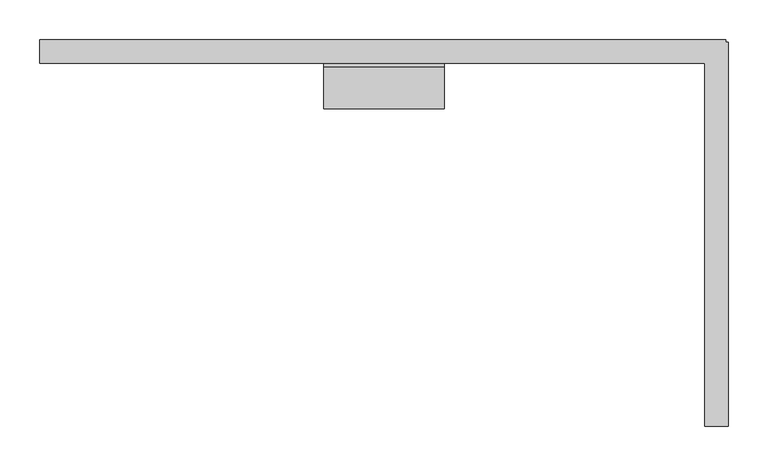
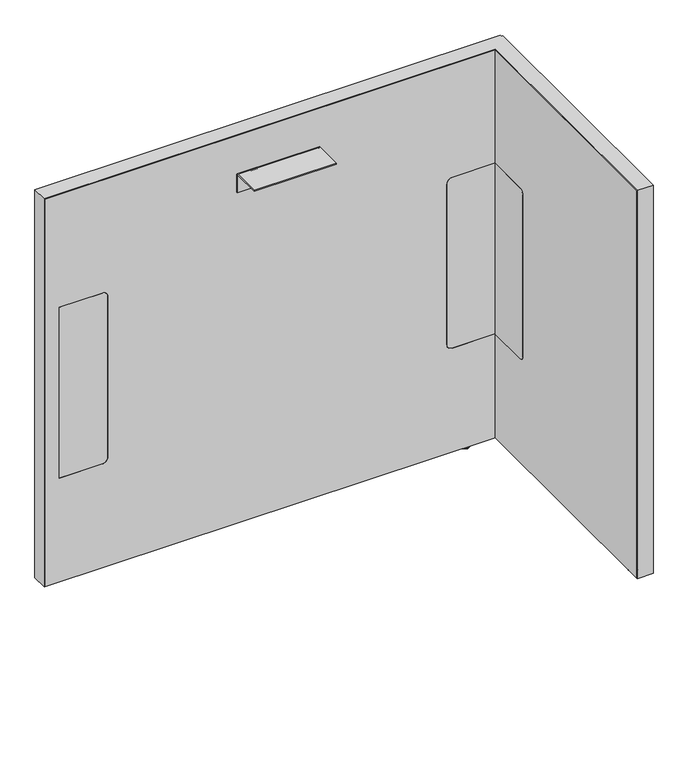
"""IFC4 building model written with IfcOpenShell, lengths in millimetres: furniture geometry, Steelcase - Answer Solution - Boundary Screen - L Return - Single Sided : 30H x 33W."""

from ifc_helpers import new_model, si_unit, point, frame, frame_2d, origin, place, context, project, spatial, polyline, circle_curve, ellipse_curve, trimmed, segment, composite_curve, outline, extrude, faceted_brep, source, transform, mapped, element, save
from ifc_brep_helpers import plane_surface, cylinder_surface, revolved_surface, advanced_brep


def furniture_544265d9(model_context):
    return source(origin(), model_context, "Body", "SolidModel", [
        extrude(outline(composite_curve([segment(polyline([(-109.3501471, 549.6162029), (-29.0550397, 549.6162029), (-29.0550397, 213.7762137), (-109.3501471, 213.7762137)]), True, "CONTINUOUS"), segment(trimmed(circle_curve(frame_2d((-109.3501471, 223.9362137)), 10.16), [point((-109.3501471, 213.7762137))], [point((-119.5101471, 223.9362137))], False, "CARTESIAN"), True, "CONTINUOUS"), segment(polyline([(-119.5101471, 223.9362137), (-119.5101471, 539.4562029)]), True, "CONTINUOUS"), segment(trimmed(circle_curve(frame_2d((-109.3501471, 539.4562029)), 10.16), [point((-119.5101471, 539.4562029))], [point((-109.3501471, 549.6162029))], False, "CARTESIAN"), True, "CONTINUOUS")], self_intersect=False)), frame((1068.0191891, 0.0, 0.0), z_axis=(1.0, 0.0, 0.0), x_axis=(0.0, 1.0, 0.0)), (0.0, 0.0, 1.0), 0.6401544),
        advanced_brep(
        [(1082.8672074, -448.0136072, 0.0), (1089.8216144, -448.0136072, 0.0), (1075.9128003, -448.0136072, 0.0), (1091.2762685, -448.0136072, 1.2700001), (1074.4581463, -448.0136072, 1.2700001), (1091.2762685, -448.0136072, 2.9673238), (1074.4581463, -448.0136072, 2.9673238), (1092.2427877, -448.0136072, 2.9673238), (1073.491627, -448.0136072, 2.9673238), (1092.2427877, -448.0136072, 9.9059849), (1073.491627, -448.0136072, 9.9059849), (1082.8672074, -448.0136072, 9.9059849)],
        [
            (0, 1),
            (1, 2, circle_curve(frame((1082.8672074, -448.0136072, 0.0), z_axis=(0.0, 0.0, -1.0), x_axis=(1.0, 0.0, 0.0)), 6.9544071)),
            (2, 0),
            (2, 1, circle_curve(frame((1082.8672074, -448.0136072, 0.0), z_axis=(0.0, 0.0, -1.0), x_axis=(1.0, 0.0, 0.0)), 6.9544071)),
            (1, 3, circle_curve(frame((1089.9945484, -448.0136072, 1.2700001), z_axis=(0.0, -1.0, 0.0), x_axis=(0.0, 0.0, 1.0)), 1.2817201)),
            (3, 4, circle_curve(frame((1082.8672074, -448.0136072, 1.2700001), z_axis=(0.0, 0.0, -1.0), x_axis=(1.0, 0.0, 0.0)), 8.4090611)),
            (4, 2, circle_curve(frame((1075.7398663, -448.0136072, 1.2700001), z_axis=(0.0, -1.0, 0.0), x_axis=(0.0, 0.0, 1.0)), 1.2817201)),
            (4, 3, circle_curve(frame((1082.8672074, -448.0136072, 1.2700001), z_axis=(0.0, 0.0, -1.0), x_axis=(1.0, 0.0, 0.0)), 8.4090611)),
            (3, 5),
            (5, 6, circle_curve(frame((1082.8672074, -448.0136072, 2.9673238), z_axis=(0.0, 0.0, -1.0), x_axis=(1.0, 0.0, 0.0)), 8.4090611)),
            (6, 4),
            (6, 5, circle_curve(frame((1082.8672074, -448.0136072, 2.9673238), z_axis=(0.0, 0.0, -1.0), x_axis=(1.0, 0.0, 0.0)), 8.4090611)),
            (5, 7),
            (7, 8, circle_curve(frame((1082.8672074, -448.0136072, 2.9673238), z_axis=(0.0, 0.0, -1.0), x_axis=(1.0, 0.0, 0.0)), 9.3755804)),
            (8, 6),
            (8, 7, circle_curve(frame((1082.8672074, -448.0136072, 2.9673238), z_axis=(0.0, 0.0, -1.0), x_axis=(1.0, 0.0, 0.0)), 9.3755804)),
            (7, 9),
            (9, 10, circle_curve(frame((1082.8672074, -448.0136072, 9.9059849), z_axis=(0.0, 0.0, -1.0), x_axis=(1.0, 0.0, 0.0)), 9.3755804)),
            (10, 8),
            (10, 9, circle_curve(frame((1082.8672074, -448.0136072, 9.9059849), z_axis=(0.0, 0.0, -1.0), x_axis=(1.0, 0.0, 0.0)), 9.3755804)),
            (9, 11),
            (11, 10),
        ],
        [
            plane_surface(frame((1082.8672074, -448.0136072, 0.0), z_axis=(0.0, 0.0, -1.0), x_axis=(1.0, 0.0, 0.0))),
            revolved_surface(trimmed(ellipse_curve(frame((1089.9945484, -448.0136072, 1.2700001), z_axis=(0.0, 1.0, 0.0), x_axis=(0.0, 0.0, 1.0)), 1.2817201, 1.2817201), [point((1091.2762685, -448.0136072, 1.2700001))], [point((1089.8216144, -448.0136072, 0.0))], True, "CARTESIAN"), (1082.8672074, -448.0136072, 9.9059849), (0.0, 0.0, -1.0)),
            cylinder_surface(frame((1082.8672074, -448.0136072, 9.9059849), z_axis=(0.0, 0.0, -1.0), x_axis=(1.0, 0.0, 0.0)), 8.4090611),
            plane_surface(frame((1082.8672074, -448.0136072, 2.9673238), z_axis=(0.0, 0.0, -1.0), x_axis=(1.0, 0.0, 0.0))),
            cylinder_surface(frame((1082.8672074, -448.0136072, 9.9059849), z_axis=(0.0, 0.0, -1.0), x_axis=(1.0, 0.0, 0.0)), 9.3755804),
            plane_surface(frame((1082.8672074, -448.0136072, 9.9059849), z_axis=(0.0, 0.0, 1.0), x_axis=(1.0, 0.0, 0.0))),
        ],
        [
            (0, [[1, 2, 3]]),
            (0, [[-3, 4, -1]]),
            (1, [[-2, 5, 6, 7]]),
            (1, [[-4, -7, 8, -5]]),
            (2, [[-6, 9, 10, 11]]),
            (2, [[-8, -11, 12, -9]]),
            (3, [[-10, 13, 14, 15]]),
            (3, [[-12, -15, 16, -13]]),
            (4, [[-14, 17, 18, 19]]),
            (4, [[-16, -19, 20, -17]]),
            (5, [[-18, 21, 22]]),
            (5, [[-20, -22, -21]]),
        ],
    ),
        faceted_brep([(1094.4531179, 0.0, 772.922), (1094.4531179, 0.0, 9.9059849), (1093.4621491, 0.0, 9.9059849), (1093.4621491, 0.0, 771.942118), (230.8097779, 0.0, 771.942118), (230.8097779, 0.0, 9.9059849), (229.8191891, 0.0, 9.9059849), (229.8191891, 0.0, 772.922), (229.8191891, -29.6898332, 772.922), (229.8191891, -29.6898332, 9.9059849), (230.8097779, -29.6898332, 9.9059849), (230.8097779, -29.6898332, 771.942118), (1068.0191891, -29.6898332, 771.942118), (1068.0191891, -29.6898332, 772.922), (1093.4621491, -29.6898332, 771.942118), (1093.4621491, -29.6898332, 9.9059849), (1094.4531179, -29.6898332, 9.9059849), (1094.4531179, -29.6898332, 771.942118), (1094.4531179, -3.2625916, 772.922), (1094.4531179, -3.2625916, 9.9059849), (1094.4531179, -4.252647, 9.9059849), (1094.4531179, -4.252647, 771.942118), (1097.7152256, -3.2625916, 9.9059849), (1097.7152256, -4.252647, 9.9059849), (1093.4621491, -4.252647, 9.9059849), (1068.0191891, -4.252647, 9.9059849), (1068.0191891, -3.2625916, 9.9059849), (1093.4621491, -3.2625916, 9.9059849), (1068.0191891, -486.8898332, 772.922), (1097.7152256, -486.8898332, 772.922), (1097.7152256, -3.2625916, 772.922), (1093.4621491, -3.2625916, 771.942118), (1093.4621491, -4.252647, 771.942118), (1068.0191891, -3.2625916, 771.942118), (1068.0191891, -4.252647, 771.942118), (1097.7152256, -4.252647, 771.942118), (1097.7152256, -485.899196, 771.942118), (1068.0191891, -485.899196, 771.942118), (1068.0191891, -485.899196, 9.9059849), (1068.0191891, -486.8898332, 9.9059849), (1097.7152256, -486.8898332, 9.9059849), (1097.7152256, -485.899196, 9.9059849)], [[[0, 1, 2, 3, 4, 5, 6, 7]], [[8, 9, 10, 11, 12, 13]], [[14, 15, 16, 17]], [[1, 0, 18, 19]], [[17, 16, 20, 21]], [[2, 1, 19, 22, 23, 20, 16, 15, 24, 25, 26, 27]], [[7, 6, 9, 8]], [[0, 7, 8, 13, 28, 29, 30, 18]], [[3, 2, 27, 31]], [[15, 14, 32, 24]], [[4, 3, 31, 33, 34, 32, 14, 17, 21, 35, 36, 37, 12, 11]], [[5, 4, 11, 10]], [[6, 5, 10, 9]], [[26, 25, 34, 33]], [[37, 38, 39, 28, 13, 12]], [[29, 40, 41, 36, 35, 23, 22, 30]], [[27, 26, 33, 31]], [[30, 22, 19, 18]], [[34, 25, 24, 32]], [[23, 35, 21, 20]], [[38, 37, 36, 41]], [[39, 38, 41, 40]], [[28, 39, 40, 29]]]),
        extrude(outline(composite_curve([segment(polyline([(-86.8398151, 696.4680019), (-86.8398151, 698.5), (-34.9450855, 698.5)]), True, "CONTINUOUS"), segment(trimmed(circle_curve(frame_2d((-34.9450855, 693.2447477)), 5.2552523), [point((-34.9450855, 698.5))], [point((-29.6898332, 693.2447477))], False, "CARTESIAN"), True, "CONTINUOUS"), segment(polyline([(-29.6898332, 693.2447477), (-29.6898332, 660.4), (-31.7218162, 660.4), (-31.7218162, 693.0058743)]), True, "CONTINUOUS"), segment(trimmed(circle_curve(frame_2d((-35.1839438, 693.0058743)), 3.4621276), [point((-31.7218162, 693.0058743))], [point((-35.1839438, 696.4680019))], True, "CARTESIAN"), True, "CONTINUOUS"), segment(polyline([(-35.1839438, 696.4680019), (-86.8398151, 696.4680019)]), True, "CONTINUOUS")], self_intersect=False)), frame((587.5685899, 0.0, 0.0), z_axis=(1.0, 0.0, 0.0), x_axis=(0.0, 1.0, 0.0)), (0.0, 0.0, 1.0), 152.4000969),
        advanced_brep(
        [(1020.5246853, -23.7588726, 9.9059849), (1020.5246853, -5.9309607, 9.9059849), (1020.5246853, -14.8449166, 9.9059849), (1020.5246853, -23.7588726, 2.9673238), (1020.5246853, -5.9309607, 2.9673238), (1020.5246853, -22.7915354, 2.9673238), (1020.5246853, -6.8982978, 2.9673238), (1020.5246853, -22.7915354, 1.6569081), (1020.5246853, -6.8982978, 1.6569081), (1020.5246853, -21.1346274, 0.0), (1020.5246853, -8.5552059, 0.0), (1020.5246853, -14.8449166, 0.0)],
        [
            (0, 1, circle_curve(frame((1020.5246853, -14.8449166, 9.9059849), z_axis=(0.0, 0.0, 1.0), x_axis=(0.0, 1.0, 0.0)), 8.913956)),
            (1, 2),
            (2, 0),
            (1, 0, circle_curve(frame((1020.5246853, -14.8449166, 9.9059849), z_axis=(0.0, 0.0, 1.0), x_axis=(0.0, 1.0, 0.0)), 8.913956)),
            (3, 4, circle_curve(frame((1020.5246853, -14.8449166, 2.9673238), z_axis=(0.0, 0.0, 1.0), x_axis=(0.0, 1.0, 0.0)), 8.913956)),
            (4, 1),
            (0, 3),
            (4, 3, circle_curve(frame((1020.5246853, -14.8449166, 2.9673238), z_axis=(0.0, 0.0, 1.0), x_axis=(0.0, 1.0, 0.0)), 8.913956)),
            (5, 6, circle_curve(frame((1020.5246853, -14.8449166, 2.9673238), z_axis=(0.0, 0.0, 1.0), x_axis=(0.0, 1.0, 0.0)), 7.9466188)),
            (6, 4),
            (3, 5),
            (6, 5, circle_curve(frame((1020.5246853, -14.8449166, 2.9673238), z_axis=(0.0, 0.0, 1.0), x_axis=(0.0, 1.0, 0.0)), 7.9466188)),
            (7, 8, circle_curve(frame((1020.5246853, -14.8449166, 1.6569081), z_axis=(0.0, 0.0, 1.0), x_axis=(0.0, 1.0, 0.0)), 7.9466188)),
            (8, 6),
            (5, 7),
            (8, 7, circle_curve(frame((1020.5246853, -14.8449166, 1.6569081), z_axis=(0.0, 0.0, 1.0), x_axis=(0.0, 1.0, 0.0)), 7.9466188)),
            (9, 10, circle_curve(frame((1020.5246853, -14.8449166, 0.0), z_axis=(0.0, 0.0, 1.0), x_axis=(0.0, 1.0, 0.0)), 6.2897107)),
            (10, 8, circle_curve(frame((1020.5246853, -8.5552059, 1.6569081), z_axis=(1.0, 0.0, 0.0), x_axis=(0.0, 1.0, 0.0)), 1.6569081)),
            (7, 9, circle_curve(frame((1020.5246853, -21.1346274, 1.6569081), z_axis=(1.0, 0.0, 0.0), x_axis=(0.0, -1.0, 0.0)), 1.6569081)),
            (10, 9, circle_curve(frame((1020.5246853, -14.8449166, 0.0), z_axis=(0.0, 0.0, 1.0), x_axis=(0.0, 1.0, 0.0)), 6.2897107)),
            (11, 10),
            (9, 11),
        ],
        [
            plane_surface(frame((1020.5246853, -14.8449166, 9.9059849), z_axis=(0.0, 0.0, 1.0), x_axis=(0.0, 1.0, 0.0))),
            cylinder_surface(frame((1020.5246853, -14.8449166, 9.9059849), z_axis=(0.0, 0.0, -1.0), x_axis=(0.0, 1.0, 0.0)), 8.913956),
            plane_surface(frame((1020.5246853, -14.8449166, 2.9673238), z_axis=(0.0, 0.0, -1.0), x_axis=(0.0, 1.0, 0.0))),
            cylinder_surface(frame((1020.5246853, -14.8449166, 9.9059849), z_axis=(0.0, 0.0, -1.0), x_axis=(0.0, 1.0, 0.0)), 7.9466188),
            revolved_surface(trimmed(ellipse_curve(frame((1020.5246853, -8.5552059, 1.6569081), z_axis=(-1.0, 0.0, 0.0), x_axis=(0.0, 1.0, 0.0)), 1.6569081, 1.6569081), [point((1020.5246853, -6.8982978, 1.6569081))], [point((1020.5246853, -8.5552059, 0.0))], True, "CARTESIAN"), (1020.5246853, -14.8449166, 9.9059849), (0.0, 0.0, -1.0)),
            plane_surface(frame((1020.5246853, -14.8449166, 0.0), z_axis=(0.0, 0.0, -1.0), x_axis=(0.0, 1.0, 0.0))),
        ],
        [
            (0, [[1, 2, 3]]),
            (0, [[4, -3, -2]]),
            (1, [[5, 6, -1, 7]]),
            (1, [[8, -7, -4, -6]]),
            (2, [[9, 10, -5, 11]]),
            (2, [[12, -11, -8, -10]]),
            (3, [[13, 14, -9, 15]]),
            (3, [[16, -15, -12, -14]]),
            (4, [[17, 18, -13, 19]]),
            (4, [[20, -19, -16, -18]]),
            (5, [[21, -17, 22]]),
            (5, [[-22, -20, -21]]),
        ],
    ),
        advanced_brep(
        [(230.8097779, 0.0, 771.942118), (1093.4621491, 0.0, 771.942118), (1093.4621491, 0.0, 9.9059849), (230.8097779, 0.0, 9.9059849), (347.9483813, -29.0550397, 539.4562029), (337.7883813, -29.0550397, 549.6162029), (258.1344836, -29.0550397, 549.6162029), (258.1344836, -29.0550397, 213.7762137), (337.7883813, -29.0550397, 213.7762137), (347.9483813, -29.0550397, 223.9362137), (1068.6593435, -29.0550397, 213.7762137), (1068.6593435, -29.0550397, 549.6162029), (988.1109268, -29.0550397, 549.6162029), (977.9509268, -29.0550397, 539.4562029), (977.9509268, -29.0550397, 223.9362137), (988.1109268, -29.0550397, 213.7762137), (230.8097779, -29.6898332, 771.942118), (230.8097779, -29.6898332, 9.9059849), (1068.0191891, -29.6898332, 9.9059849), (1068.0191891, -29.6898332, 213.7762137), (988.1109268, -29.6898332, 213.7762137), (977.9509268, -29.6898332, 223.9362137), (977.9509268, -29.6898332, 539.4562029), (988.1109268, -29.6898332, 549.6162029), (1068.0191891, -29.6898332, 549.6162029), (1068.0191891, -29.6898332, 771.942118), (337.7883813, -29.6898332, 549.6162029), (347.9483813, -29.6898332, 539.4562029), (347.9483813, -29.6898332, 223.9362137), (337.7883813, -29.6898332, 213.7762137), (258.1344836, -29.6898332, 213.7762137), (258.1344836, -29.6898332, 549.6162029), (1093.4621491, -4.252647, 9.9059849), (1097.7152256, -4.252647, 9.9059849), (1097.7152256, -485.899196, 9.9059849), (1068.0191891, -485.899196, 9.9059849), (1093.4621491, -4.252647, 771.942118), (1068.0191891, -485.899196, 771.942118), (1097.7152256, -485.899196, 771.942118), (1097.7152256, -4.252647, 771.942118), (1068.6593435, -109.3501471, 549.6162029), (1068.0191891, -109.3501471, 549.6162029), (1068.6593435, -109.3501471, 213.7762137), (1068.6593435, -119.5101471, 223.9362137), (1068.6593435, -119.5101471, 539.4562029), (1068.0191891, -109.3501471, 213.7762137), (1068.0191891, -119.5101471, 539.4562029), (1068.0191891, -119.5101471, 223.9362137)],
        [
            (0, 1),
            (1, 2),
            (2, 3),
            (3, 0),
            (4, 5, circle_curve(frame((337.7883813, -29.0550397, 539.4562029), z_axis=(0.0, -1.0, 0.0), x_axis=(0.0, 0.0, 1.0)), 10.16)),
            (5, 6),
            (6, 7),
            (7, 8),
            (8, 9, circle_curve(frame((337.7883813, -29.0550397, 223.9362137), z_axis=(0.0, -1.0, 0.0), x_axis=(0.0, 0.0, 1.0)), 10.16)),
            (9, 4),
            (10, 11),
            (11, 12),
            (12, 13, circle_curve(frame((988.1109268, -29.0550397, 539.4562029), z_axis=(0.0, -1.0, 0.0), x_axis=(0.0, 0.0, 1.0)), 10.16)),
            (13, 14),
            (14, 15, circle_curve(frame((988.1109268, -29.0550397, 223.9362137), z_axis=(0.0, -1.0, 0.0), x_axis=(0.0, 0.0, 1.0)), 10.16)),
            (15, 10),
            (16, 17),
            (17, 18),
            (18, 19),
            (19, 20),
            (20, 21, circle_curve(frame((988.1109268, -29.6898332, 223.9362137), z_axis=(0.0, 1.0, 0.0), x_axis=(0.0, 0.0, 1.0)), 10.16)),
            (21, 22),
            (22, 23, circle_curve(frame((988.1109268, -29.6898332, 539.4562029), z_axis=(0.0, 1.0, 0.0), x_axis=(0.0, 0.0, 1.0)), 10.16)),
            (23, 24),
            (24, 25),
            (25, 16),
            (26, 27, circle_curve(frame((337.7883813, -29.6898332, 539.4562029), z_axis=(0.0, 1.0, 0.0), x_axis=(0.0, 0.0, 1.0)), 10.16)),
            (27, 28),
            (28, 29, circle_curve(frame((337.7883813, -29.6898332, 223.9362137), z_axis=(0.0, 1.0, 0.0), x_axis=(0.0, 0.0, 1.0)), 10.16)),
            (29, 30),
            (30, 31),
            (31, 26),
            (16, 0),
            (3, 17),
            (2, 32),
            (32, 33),
            (33, 34),
            (34, 35),
            (35, 18),
            (1, 36),
            (36, 32),
            (25, 37),
            (37, 38),
            (38, 39),
            (39, 36),
            (26, 5),
            (4, 27),
            (9, 28),
            (8, 29),
            (7, 30),
            (6, 31),
            (11, 40),
            (40, 41),
            (41, 24),
            (23, 12),
            (42, 43, circle_curve(frame((1068.6593435, -109.3501471, 223.9362137), z_axis=(-1.0, 0.0, 0.0), x_axis=(0.0, 1.0, 0.0)), 10.16)),
            (43, 44),
            (44, 40, circle_curve(frame((1068.6593435, -109.3501471, 539.4562029), z_axis=(-1.0, 0.0, 0.0), x_axis=(0.0, 1.0, 0.0)), 10.16)),
            (10, 42),
            (15, 20),
            (19, 45),
            (45, 42),
            (14, 21),
            (13, 22),
            (35, 37),
            (41, 46, circle_curve(frame((1068.0191891, -109.3501471, 539.4562029), z_axis=(1.0, 0.0, 0.0), x_axis=(0.0, 1.0, 0.0)), 10.16)),
            (46, 47),
            (47, 45, circle_curve(frame((1068.0191891, -109.3501471, 223.9362137), z_axis=(1.0, 0.0, 0.0), x_axis=(0.0, 1.0, 0.0)), 10.16)),
            (38, 34),
            (33, 39),
            (44, 46),
            (43, 47),
        ],
        [
            plane_surface(frame((347.9483813, 0.0, 549.6162029), z_axis=(0.0, 1.0, 0.0), x_axis=(0.0, 0.0, -1.0))),
            plane_surface(frame((347.9483813, -29.0550397, 549.6162029), z_axis=(0.0, -1.0, 0.0), x_axis=(0.0, 0.0, 1.0))),
            plane_surface(frame((1093.4621491, -29.6898332, 771.942118), z_axis=(0.0, -1.0, 0.0), x_axis=(-1.0, 0.0, 0.0))),
            plane_surface(frame((230.8097779, 0.0, 9.9059849), z_axis=(-1.0, 0.0, 0.0), x_axis=(0.0, -1.0, 0.0))),
            plane_surface(frame((1093.4621491, 0.0, 9.9059849), z_axis=(0.0, 0.0, -1.0), x_axis=(0.0, -1.0, 0.0))),
            plane_surface(frame((1093.4621491, 0.0, 771.942118), z_axis=(1.0, 0.0, 0.0), x_axis=(0.0, -1.0, 0.0))),
            plane_surface(frame((230.8097779, 0.0, 771.942118), z_axis=(0.0, 0.0, 1.0), x_axis=(0.0, -1.0, 0.0))),
            revolved_surface(polyline([(337.7883813, -29.6898332, 549.6162029), (337.7883813, -29.0550397, 549.6162029)]), (337.7883813, -29.6898332, 539.4562029), (0.0, -1.0, 0.0)),
            plane_surface(frame((347.9483813, 0.0, 223.9362137), z_axis=(-1.0, 0.0, 0.0), x_axis=(0.0, -1.0, 0.0))),
            revolved_surface(polyline([(337.7883813, -29.6898332, 234.0962137), (337.7883813, -29.0550397, 234.0962137)]), (337.7883813, -29.6898332, 223.9362137), (0.0, -1.0, 0.0)),
            plane_surface(frame((258.1344836, 0.0, 213.7762137), z_axis=(0.0, 0.0, 1.0), x_axis=(0.0, -1.0, 0.0))),
            plane_surface(frame((258.1344836, 0.0, 549.6162029), z_axis=(1.0, 0.0, 0.0), x_axis=(0.0, -1.0, 0.0))),
            plane_surface(frame((337.7883813, 0.0, 549.6162029), z_axis=(0.0, 0.0, -1.0), x_axis=(0.0, -1.0, 0.0))),
            plane_surface(frame((1068.6593435, 0.0, 549.6162029), z_axis=(0.0, 0.0, -1.0), x_axis=(0.0, -1.0, 0.0))),
            plane_surface(frame((1068.6593435, 0.0, 213.7762137), z_axis=(-1.0, 0.0, 0.0), x_axis=(0.0, -1.0, 0.0))),
            plane_surface(frame((988.1109268, 0.0, 213.7762137), z_axis=(0.0, 0.0, 1.0), x_axis=(0.0, -1.0, 0.0))),
            revolved_surface(polyline([(988.1109268, -29.6898332, 234.0962137), (988.1109268, -29.0550397, 234.0962137)]), (988.1109268, -29.6898332, 223.9362137), (0.0, -1.0, 0.0)),
            plane_surface(frame((977.9509268, 0.0, 539.4562029), z_axis=(1.0, 0.0, 0.0), x_axis=(0.0, -1.0, 0.0))),
            revolved_surface(polyline([(988.1109268, -29.6898332, 549.6162029), (988.1109268, -29.0550397, 549.6162029)]), (988.1109268, -29.6898332, 539.4562029), (0.0, -1.0, 0.0)),
            plane_surface(frame((1068.0191891, -485.899196, 771.942118), z_axis=(-1.0, 0.0, 0.0), x_axis=(0.0, 0.0, 1.0))),
            plane_surface(frame((1097.7152256, -485.899196, 771.942118), z_axis=(1.0, 0.0, 0.0), x_axis=(0.0, 0.0, -1.0))),
            plane_surface(frame((1097.7152256, -4.252647, 9.9059849), z_axis=(0.0, 1.0, 0.0), x_axis=(-1.0, 0.0, 0.0))),
            plane_surface(frame((1097.7152256, -485.899196, 771.942118), z_axis=(0.0, -1.0, 0.0), x_axis=(-1.0, 0.0, 0.0))),
            revolved_surface(polyline([(1068.0191891, -99.1901471, 539.4562029), (1068.6593435, -99.1901471, 539.4562029)]), (-340.6902705, -109.3501471, 539.4562029), (-1.0, 0.0, 0.0)),
            plane_surface(frame((1097.7152256, -119.5101471, 223.9362137), z_axis=(0.0, 1.0, 0.0), x_axis=(-1.0, 0.0, 0.0))),
            revolved_surface(polyline([(1068.0191891, -99.1901471, 223.9362137), (1068.6593435, -99.1901471, 223.9362137)]), (-340.6902705, -109.3501471, 223.9362137), (-1.0, 0.0, 0.0)),
        ],
        [
            (0, [[1, 2, 3, 4]]),
            (1, [[5, 6, 7, 8, 9, 10]]),
            (1, [[11, 12, 13, 14, 15, 16]]),
            (2, [[17, 18, 19, 20, 21, 22, 23, 24, 25, 26], [27, 28, 29, 30, 31, 32]]),
            (3, [[-17, 33, -4, 34]]),
            (4, [[-3, 35, 36, 37, 38, 39, -18, -34]]),
            (5, [[-2, 40, 41, -35]]),
            (6, [[-1, -33, -26, 42, 43, 44, 45, -40]]),
            (7, [[-27, 46, -5, 47]]),
            (8, [[-28, -47, -10, 48]]),
            (9, [[-29, -48, -9, 49]]),
            (10, [[-30, -49, -8, 50]]),
            (11, [[-31, -50, -7, 51]]),
            (12, [[-32, -51, -6, -46]]),
            (13, [[52, 53, 54, -24, 55, -12]]),
            (14, [[56, 57, 58, -52, -11, 59]]),
            (15, [[-59, -16, 60, -20, 61, 62]]),
            (16, [[-21, -60, -15, 63]]),
            (17, [[-22, -63, -14, 64]]),
            (18, [[-23, -64, -13, -55]]),
            (19, [[65, -42, -25, -54, 66, 67, 68, -61, -19, -39]]),
            (20, [[69, -37, 70, -44]]),
            (21, [[-70, -36, -41, -45]]),
            (22, [[-65, -38, -69, -43]]),
            (23, [[-66, -53, -58, 71]]),
            (24, [[-67, -71, -57, 72]]),
            (25, [[-68, -72, -56, -62]]),
        ],
    ),
        extrude(outline(composite_curve([segment(polyline([(549.6162029, 337.7883813), (549.6162029, 258.1344836), (213.7762137, 258.1344836), (213.7762137, 337.7883813)]), True, "CONTINUOUS"), segment(trimmed(circle_curve(frame_2d((223.9362137, 337.7883813)), 10.16), [point((213.7762137, 337.7883813))], [point((223.9362137, 347.9483813))], False, "CARTESIAN"), True, "CONTINUOUS"), segment(polyline([(223.9362137, 347.9483813), (539.4562029, 347.9483813)]), True, "CONTINUOUS"), segment(trimmed(circle_curve(frame_2d((539.4562029, 337.7883813)), 10.16), [point((539.4562029, 347.9483813))], [point((549.6162029, 337.7883813))], False, "CARTESIAN"), True, "CONTINUOUS")], self_intersect=False)), frame((0.0, -29.6898332, 0.0), z_axis=(0.0, 1.0, 0.0), x_axis=(0.0, 0.0, 1.0)), (0.0, 0.0, 1.0), 0.6347935),
        extrude(outline(composite_curve([segment(trimmed(circle_curve(frame_2d((539.4562029, 988.1109268)), 10.16), [point((549.6162029, 988.1109268))], [point((539.4562029, 977.9509268))], False, "CARTESIAN"), True, "CONTINUOUS"), segment(polyline([(539.4562029, 977.9509268), (223.9362137, 977.9509268)]), True, "CONTINUOUS"), segment(trimmed(circle_curve(frame_2d((223.9362137, 988.1109268)), 10.16), [point((223.9362137, 977.9509268))], [point((213.7762137, 988.1109268))], False, "CARTESIAN"), True, "CONTINUOUS"), segment(polyline([(213.7762137, 988.1109268), (213.7762137, 1068.0191891), (549.6162029, 1068.0191891), (549.6162029, 988.1109268)]), True, "CONTINUOUS")], self_intersect=False)), frame((0.0, -29.6898332, 0.0), z_axis=(0.0, 1.0, 0.0), x_axis=(0.0, 0.0, 1.0)), (0.0, 0.0, 1.0), 0.6347935),
    ])


if __name__ == "__main__":
    model = new_model("IFC4")
    model_context = context("Model", 3, world=origin())
    ifc_project = project(units=[si_unit("LENGTHUNIT", "METRE", prefix="MILLI")], contexts=[model_context])
    site = spatial("IfcSite", under=ifc_project)
    building = spatial("IfcBuilding", under=site)
    placement = place(None, origin())
    furniture_shape = furniture_544265d9(model_context)
    element("IfcFurniture", 1, ObjectType="Steelcase - Answer Solution - Boundary Screen - L Return - Single Sided : 30H x 33W", at=placement, inside=building, context=model_context, shape_type="MappedRepresentation", body=[
        mapped(furniture_shape, transform((0.0, 0.0, 0.0), x_axis=(1.0, 0.0, 0.0), y_axis=(0.0, 1.0, 0.0), z_axis=(0.0, 0.0, 1.0))),
    ])
    save(model, "model.ifc")
